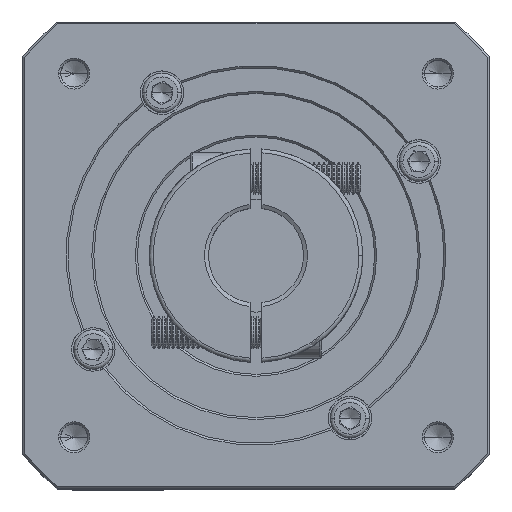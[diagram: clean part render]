
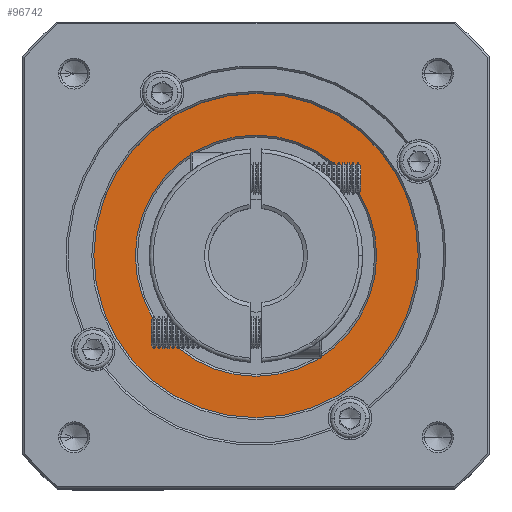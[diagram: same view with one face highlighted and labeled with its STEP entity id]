
A CAD part, top view. The second image highlights one B-rep face of the part: STEP entity #96742.
In plain terms, the highlighted planar face has unit normal (0, 0, 1).
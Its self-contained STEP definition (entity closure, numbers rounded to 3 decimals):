
#136 = DIRECTION ( 'NONE',  ( 1., 0., 0. ) ) ;
#1579 = AXIS2_PLACEMENT_3D ( 'NONE', #26187, #79877, #136 ) ;
#1865 = EDGE_LOOP ( 'NONE', ( #96995, #98411 ) ) ;
#3478 = ORIENTED_EDGE ( 'NONE', *, *, #47370, .T. ) ;
#6990 = CARTESIAN_POINT ( 'NONE',  ( 74.211, 101.778, -2.67 ) ) ;
#10903 = AXIS2_PLACEMENT_3D ( 'NONE', #46952, #82720, #108102 ) ;
#12073 = CARTESIAN_POINT ( 'NONE',  ( 74.211, 71.278, -2.67 ) ) ;
#12936 = FACE_BOUND ( 'NONE', #64645, .T. ) ;
#15682 = EDGE_CURVE ( 'NONE', #77527, #68497, #100214, .T. ) ;
#18028 = PLANE ( 'NONE',  #1579 ) ;
#19615 = ORIENTED_EDGE ( 'NONE', *, *, #28469, .T. ) ;
#22807 = AXIS2_PLACEMENT_3D ( 'NONE', #6990, #33852, #96129 ) ;
#26187 = CARTESIAN_POINT ( 'NONE',  ( 74.211, 101.778, -2.67 ) ) ;
#27543 = DIRECTION ( 'NONE',  ( 0., 0., 1. ) ) ;
#28469 = EDGE_CURVE ( 'NONE', #35258, #107524, #29586, .T. ) ;
#29288 = AXIS2_PLACEMENT_3D ( 'NONE', #42304, #86270, #68700 ) ;
#29586 = CIRCLE ( 'NONE', #29288, 30.5 ) ;
#33852 = DIRECTION ( 'NONE',  ( 0., 0., -1. ) ) ;
#35201 = FACE_OUTER_BOUND ( 'NONE', #1865, .T. ) ;
#35258 = VERTEX_POINT ( 'NONE', #94537 ) ;
#42304 = CARTESIAN_POINT ( 'NONE',  ( 74.211, 101.778, -2.67 ) ) ;
#46952 = CARTESIAN_POINT ( 'NONE',  ( 74.211, 101.778, -2.67 ) ) ;
#47370 = EDGE_CURVE ( 'NONE', #107524, #35258, #47854, .T. ) ;
#47854 = CIRCLE ( 'NONE', #22807, 30.5 ) ;
#60456 = EDGE_CURVE ( 'NONE', #68497, #77527, #62596, .T. ) ;
#61376 = CARTESIAN_POINT ( 'NONE',  ( 115.211, 101.778, -2.67 ) ) ;
#62596 = CIRCLE ( 'NONE', #10903, 41. ) ;
#64645 = EDGE_LOOP ( 'NONE', ( #3478, #19615 ) ) ;
#68497 = VERTEX_POINT ( 'NONE', #113676 ) ;
#68700 = DIRECTION ( 'NONE',  ( 0., -1., 0. ) ) ;
#71136 = AXIS2_PLACEMENT_3D ( 'NONE', #82008, #27543, #99539 ) ;
#77527 = VERTEX_POINT ( 'NONE', #61376 ) ;
#79877 = DIRECTION ( 'NONE',  ( 0., 0., 1. ) ) ;
#82008 = CARTESIAN_POINT ( 'NONE',  ( 74.211, 101.778, -2.67 ) ) ;
#82720 = DIRECTION ( 'NONE',  ( 0., 0., 1. ) ) ;
#86270 = DIRECTION ( 'NONE',  ( 0., 0., -1. ) ) ;
#94537 = CARTESIAN_POINT ( 'NONE',  ( 74.211, 132.278, -2.67 ) ) ;
#96129 = DIRECTION ( 'NONE',  ( 0., -1., 0. ) ) ;
#96742 = ADVANCED_FACE ( 'NONE', ( #35201, #12936 ), #18028, .T. ) ;
#96995 = ORIENTED_EDGE ( 'NONE', *, *, #15682, .T. ) ;
#98411 = ORIENTED_EDGE ( 'NONE', *, *, #60456, .T. ) ;
#99539 = DIRECTION ( 'NONE',  ( 1., 0., 0. ) ) ;
#100214 = CIRCLE ( 'NONE', #71136, 41. ) ;
#107524 = VERTEX_POINT ( 'NONE', #12073 ) ;
#108102 = DIRECTION ( 'NONE',  ( 1., 0., 0. ) ) ;
#113676 = CARTESIAN_POINT ( 'NONE',  ( 33.211, 101.778, -2.67 ) ) ;
